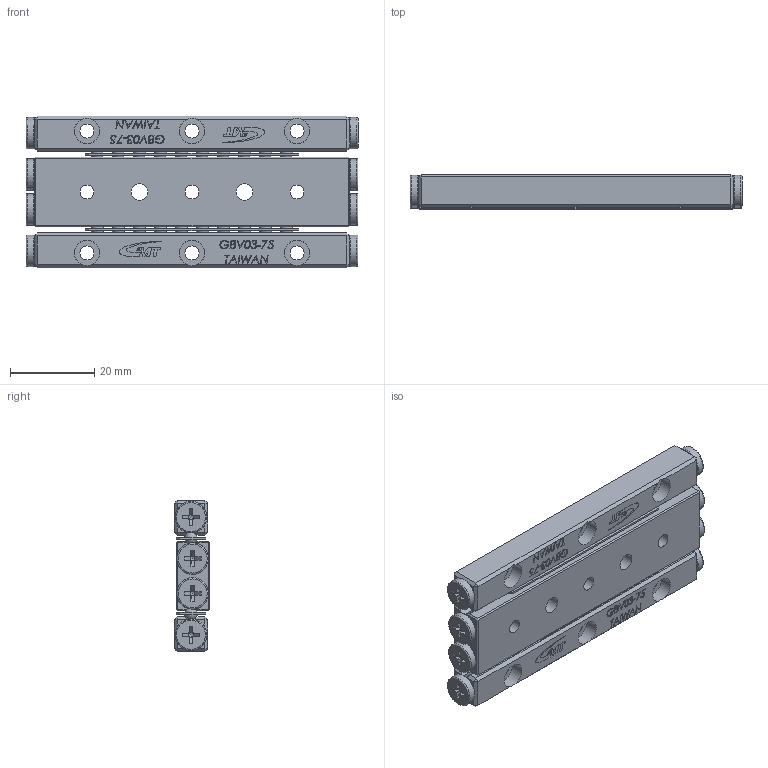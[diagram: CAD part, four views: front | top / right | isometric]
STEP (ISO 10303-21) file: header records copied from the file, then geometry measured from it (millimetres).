
FILE_DESCRIPTION (( 'STEP AP203' ), '1' );
FILE_NAME ('GBD03-75.STEP', '2023-11-17T01:25:53', ( '' ), ( '' ), 'SwSTEP 2.0', 'SolidWorks 2019', '' );
FILE_SCHEMA (( 'CONFIG_CONTROL_DESIGN' ));
Length unit declared in the file: millimetre
Products named in the file (4): GBV03-75-模糊化保持器組; GBD03-75; GBD03-75-模糊化中軌; GBV03-75-模糊化軌道
Assembly tree (5 placements, depth 2):
  GBD03-75
    GBD03-75-模糊化中軌
    GBV03-75-模糊化軌道  x2
    GBV03-75-模糊化保持器組  x2
Bounding box: 79 x 8.5 x 36 mm (x, y, z)
Volume: 18800.9 mm3; surface area: 12655.5 mm2
Topology: 5 solids, 5 shells, 1130 faces, 2908 edges, 1864 vertices
Faces by surface type: plane 788, bspline 186, cone 72, sphere 40, cylinder 28, torus 16
Full cylindrical faces by diameter (mm): 3.3 x3, 3.35 x6, 4 x2, 6 x9, 7.5 x8
Entity records: 29089 total; most frequent: CARTESIAN_POINT 11553, ORIENTED_EDGE 3698, DIRECTION 3024, EDGE_CURVE 1849, VECTOR 1284, LINE 1284, VERTEX_POINT 1195, EDGE_LOOP 896
